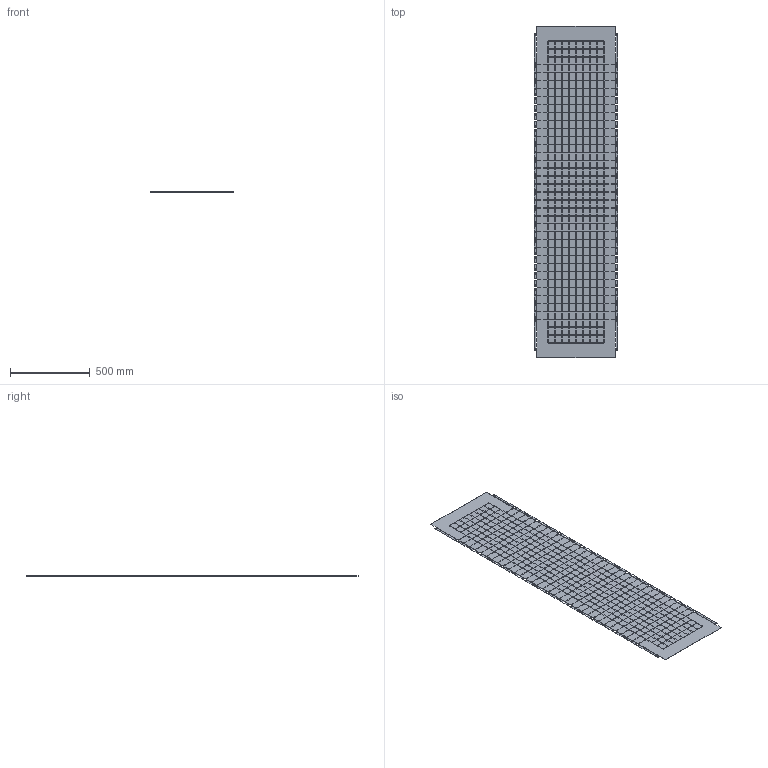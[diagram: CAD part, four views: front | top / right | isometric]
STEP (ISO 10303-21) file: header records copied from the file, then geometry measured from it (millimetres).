
FILE_DESCRIPTION (( 'STEP AP203' ), '1' );
FILE_NAME ('MA1.800.060622.03.01 Ïàíåëü âåðòèêàëüíàÿ äëÿ ñåêöèîíèðîâàíèÿ Ã600 Â2200 ìì EKF.STEP', '2024-12-02T14:04:42', ( '' ), ( '' ), 'SwSTEP 2.0', 'SolidWorks 2021', '' );
FILE_SCHEMA (( 'CONFIG_CONTROL_DESIGN' ));
Length unit declared in the file: millimetre
Products named in the file (1): MA1.800.060622.03.01 Ïàíåëü âåðòèêàëüíàÿ äëÿ ñåêöèîíèðîâàíèÿ Ã600 Â2200 ìì EKF
Bounding box: 526.6 x 2088 x 1 mm (x, y, z)
Volume: 1019770.8 mm3; surface area: 2117279.7 mm2
Topology: 1 solids, 1 shells, 4046 faces, 12132 edges, 8088 vertices
Faces by surface type: plane 3902, cylinder 144
Entity records: 137609 total; most frequent: CARTESIAN_POINT 24267, ORIENTED_EDGE 24264, DIRECTION 20514, EDGE_CURVE 12132, LINE 11844, VECTOR 11844, VERTEX_POINT 8088, EDGE_LOOP 5930
